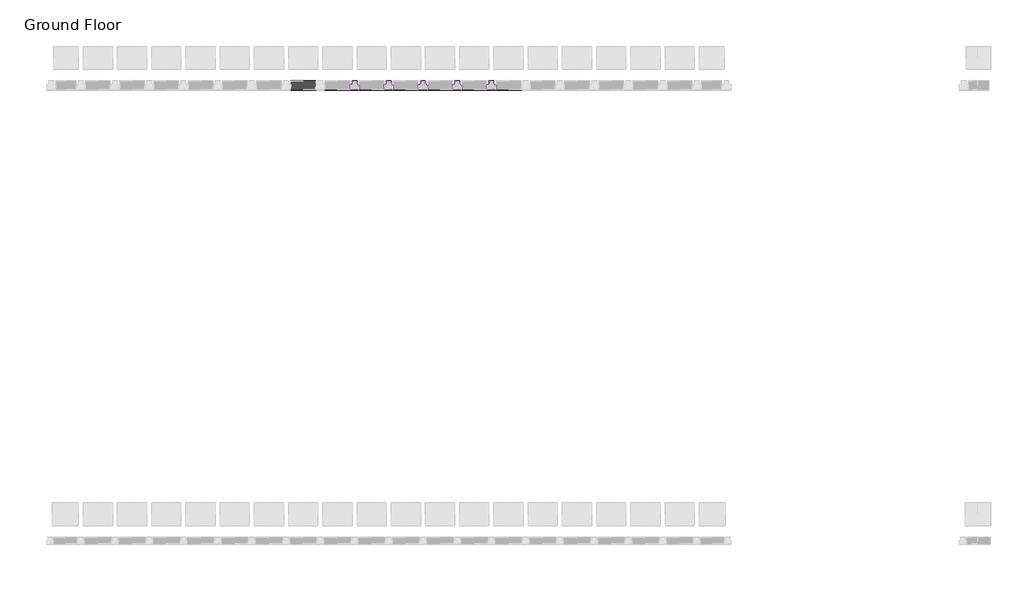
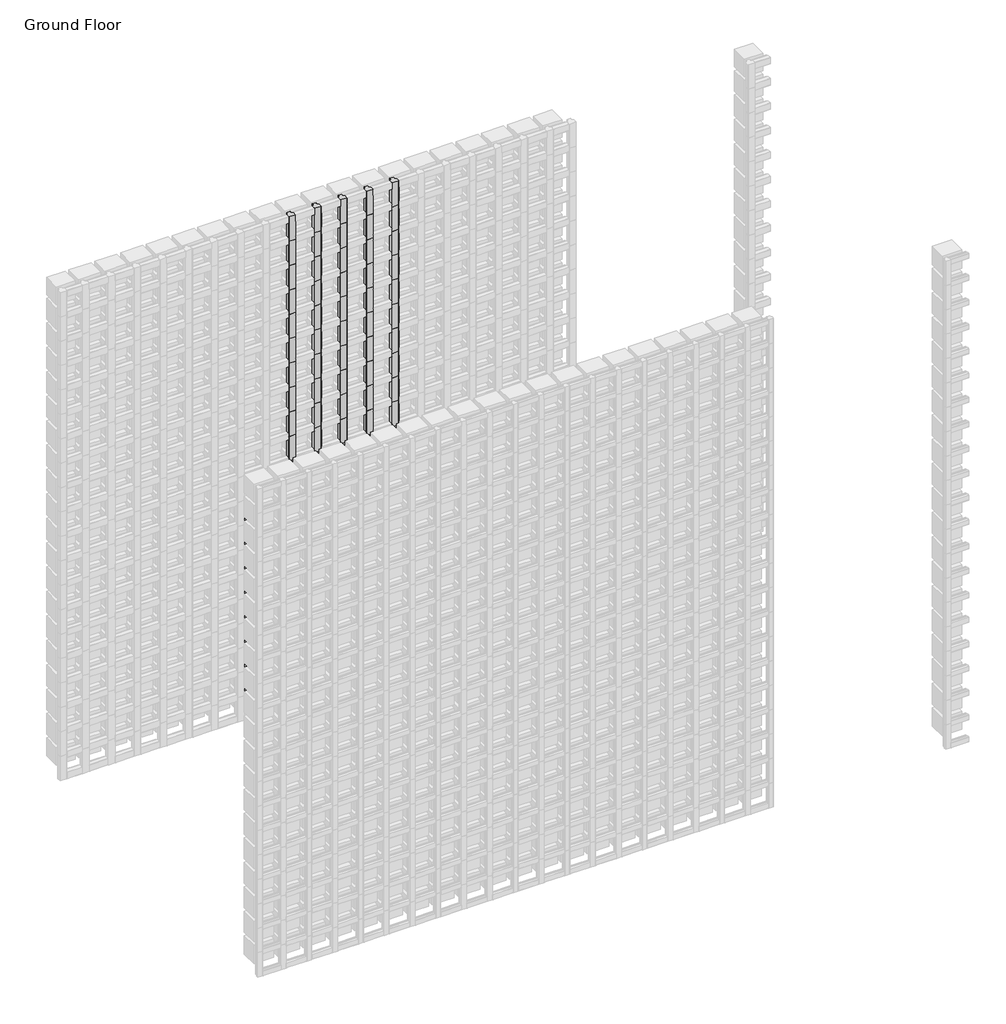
# One storey, part 122 of 350: 145 members.
"""IFC4 building model written with IfcOpenShell, lengths in millimetres."""

from ifc_helpers import new_model, si_unit, origin, place, context, project, spatial, transform, mapped, element, save
from components import rectangular_mullion_84e0df2e, rectangular_mullion_c1c7f7ba

model = new_model("IFC4")

# Units and contexts
model_context = context("Model", 3, world=origin())
ifc_project = project(units=[si_unit("LENGTHUNIT", "METRE", prefix="MILLI")], contexts=[model_context])

# Site, building, storey
site = spatial("IfcSite", under=ifc_project)
building = spatial("IfcBuilding", under=site)
storey = spatial("IfcBuildingStorey", under=building, Name="Ground Floor", Elevation=0.0)

# Members
placement = place(None, origin())
rectangular_mullion_shape = rectangular_mullion_84e0df2e(model_context)
element("IfcMember", 1, ObjectType="Rectangular Mullion : Batten_Timber_Modinex_Austratus_Grid_Fin_40x40_Blackbutt", at=placement, inside=storey, context=model_context, shape_type="MappedRepresentation", body=[
    mapped(rectangular_mullion_shape, transform((7266.4361642, 44968.2978302, 150.0), x_axis=(1.0, 0.0, 0.0), y_axis=(0.0, -1.0, 0.0), z_axis=(0.0, 0.0, -1.0))),
])
element("IfcMember", 2, ObjectType="Rectangular Mullion : Batten_Timber_Modinex_Austratus_Grid_Fin_40x40_Blackbutt", at=placement, inside=storey, context=model_context, shape_type="MappedRepresentation", body=[
    mapped(rectangular_mullion_shape, transform((7266.4361642, 44968.2978302, 300.0), x_axis=(1.0, 0.0, 0.0), y_axis=(0.0, -1.0, 0.0), z_axis=(0.0, 0.0, -1.0))),
])
element("IfcMember", 3, ObjectType="Rectangular Mullion : Batten_Timber_Modinex_Austratus_Grid_Fin_40x40_Blackbutt", at=placement, inside=storey, context=model_context, shape_type="MappedRepresentation", body=[
    mapped(rectangular_mullion_shape, transform((7266.4361642, 44968.2978302, 450.0), x_axis=(1.0, 0.0, 0.0), y_axis=(0.0, -1.0, 0.0), z_axis=(0.0, 0.0, -1.0))),
])
element("IfcMember", 4, ObjectType="Rectangular Mullion : Batten_Timber_Modinex_Austratus_Grid_Fin_40x40_Blackbutt", at=placement, inside=storey, context=model_context, shape_type="MappedRepresentation", body=[
    mapped(rectangular_mullion_shape, transform((7266.4361642, 44968.2978302, 600.0), x_axis=(1.0, 0.0, 0.0), y_axis=(0.0, -1.0, 0.0), z_axis=(0.0, 0.0, -1.0))),
])
element("IfcMember", 5, ObjectType="Rectangular Mullion : Batten_Timber_Modinex_Austratus_Grid_Fin_40x40_Blackbutt", at=placement, inside=storey, context=model_context, shape_type="MappedRepresentation", body=[
    mapped(rectangular_mullion_shape, transform((7266.4361642, 44968.2978302, 750.0), x_axis=(1.0, 0.0, 0.0), y_axis=(0.0, -1.0, 0.0), z_axis=(0.0, 0.0, -1.0))),
])
element("IfcMember", 6, ObjectType="Rectangular Mullion : Batten_Timber_Modinex_Austratus_Grid_Fin_40x40_Blackbutt", at=placement, inside=storey, context=model_context, shape_type="MappedRepresentation", body=[
    mapped(rectangular_mullion_shape, transform((7266.4361642, 44968.2978302, 900.0), x_axis=(1.0, 0.0, 0.0), y_axis=(0.0, -1.0, 0.0), z_axis=(0.0, 0.0, -1.0))),
])
element("IfcMember", 7, ObjectType="Rectangular Mullion : Batten_Timber_Modinex_Austratus_Grid_Fin_40x40_Blackbutt", at=placement, inside=storey, context=model_context, shape_type="MappedRepresentation", body=[
    mapped(rectangular_mullion_shape, transform((7266.4361642, 44968.2978302, 1050.0), x_axis=(1.0, 0.0, 0.0), y_axis=(0.0, -1.0, 0.0), z_axis=(0.0, 0.0, -1.0))),
])
element("IfcMember", 8, ObjectType="Rectangular Mullion : Batten_Timber_Modinex_Austratus_Grid_Fin_40x40_Blackbutt", at=placement, inside=storey, context=model_context, shape_type="MappedRepresentation", body=[
    mapped(rectangular_mullion_shape, transform((7266.4361642, 44968.2978302, 1200.0), x_axis=(1.0, 0.0, 0.0), y_axis=(0.0, -1.0, 0.0), z_axis=(0.0, 0.0, -1.0))),
])
element("IfcMember", 9, ObjectType="Rectangular Mullion : Batten_Timber_Modinex_Austratus_Grid_Fin_40x40_Blackbutt", at=placement, inside=storey, context=model_context, shape_type="MappedRepresentation", body=[
    mapped(rectangular_mullion_shape, transform((7266.4361642, 44968.2978302, 1350.0), x_axis=(1.0, 0.0, 0.0), y_axis=(0.0, -1.0, 0.0), z_axis=(0.0, 0.0, -1.0))),
])
element("IfcMember", 10, ObjectType="Rectangular Mullion : Batten_Timber_Modinex_Austratus_Grid_Fin_40x40_Blackbutt", at=placement, inside=storey, context=model_context, shape_type="MappedRepresentation", body=[
    mapped(rectangular_mullion_shape, transform((7266.4361642, 44968.2978302, 1500.0), x_axis=(1.0, 0.0, 0.0), y_axis=(0.0, -1.0, 0.0), z_axis=(0.0, 0.0, -1.0))),
])
element("IfcMember", 11, ObjectType="Rectangular Mullion : Batten_Timber_Modinex_Austratus_Grid_Fin_40x40_Blackbutt", at=placement, inside=storey, context=model_context, shape_type="MappedRepresentation", body=[
    mapped(rectangular_mullion_shape, transform((7266.4361642, 44968.2978302, 1650.0), x_axis=(1.0, 0.0, 0.0), y_axis=(0.0, -1.0, 0.0), z_axis=(0.0, 0.0, -1.0))),
])
element("IfcMember", 12, ObjectType="Rectangular Mullion : Batten_Timber_Modinex_Austratus_Grid_Fin_40x40_Blackbutt", at=placement, inside=storey, context=model_context, shape_type="MappedRepresentation", body=[
    mapped(rectangular_mullion_shape, transform((7266.4361642, 44968.2978302, 1800.0), x_axis=(1.0, 0.0, 0.0), y_axis=(0.0, -1.0, 0.0), z_axis=(0.0, 0.0, -1.0))),
])
element("IfcMember", 13, ObjectType="Rectangular Mullion : Batten_Timber_Modinex_Austratus_Grid_Fin_40x40_Blackbutt", at=placement, inside=storey, context=model_context, shape_type="MappedRepresentation", body=[
    mapped(rectangular_mullion_shape, transform((7266.4361642, 44968.2978302, 1950.0), x_axis=(1.0, 0.0, 0.0), y_axis=(0.0, -1.0, 0.0), z_axis=(0.0, 0.0, -1.0))),
])
element("IfcMember", 14, ObjectType="Rectangular Mullion : Batten_Timber_Modinex_Austratus_Grid_Fin_40x40_Blackbutt", at=placement, inside=storey, context=model_context, shape_type="MappedRepresentation", body=[
    mapped(rectangular_mullion_shape, transform((7266.4361642, 44968.2978302, 2100.0), x_axis=(1.0, 0.0, 0.0), y_axis=(0.0, -1.0, 0.0), z_axis=(0.0, 0.0, -1.0))),
])
element("IfcMember", 15, ObjectType="Rectangular Mullion : Batten_Timber_Modinex_Austratus_Grid_Fin_40x40_Blackbutt", at=placement, inside=storey, context=model_context, shape_type="MappedRepresentation", body=[
    mapped(rectangular_mullion_shape, transform((7266.4361642, 44968.2978302, 2250.0), x_axis=(1.0, 0.0, 0.0), y_axis=(0.0, -1.0, 0.0), z_axis=(0.0, 0.0, -1.0))),
])
element("IfcMember", 16, ObjectType="Rectangular Mullion : Batten_Timber_Modinex_Austratus_Grid_Fin_40x40_Blackbutt", at=placement, inside=storey, context=model_context, shape_type="MappedRepresentation", body=[
    mapped(rectangular_mullion_shape, transform((7266.4361642, 44968.2978302, 2400.0), x_axis=(1.0, 0.0, 0.0), y_axis=(0.0, -1.0, 0.0), z_axis=(0.0, 0.0, -1.0))),
])
element("IfcMember", 17, ObjectType="Rectangular Mullion : Batten_Timber_Modinex_Austratus_Grid_Fin_40x40_Blackbutt", at=placement, inside=storey, context=model_context, shape_type="MappedRepresentation", body=[
    mapped(rectangular_mullion_shape, transform((7266.4361642, 44968.2978302, 2550.0), x_axis=(1.0, 0.0, 0.0), y_axis=(0.0, -1.0, 0.0), z_axis=(0.0, 0.0, -1.0))),
])
element("IfcMember", 18, ObjectType="Rectangular Mullion : Batten_Timber_Modinex_Austratus_Grid_Fin_40x40_Blackbutt", at=placement, inside=storey, context=model_context, shape_type="MappedRepresentation", body=[
    mapped(rectangular_mullion_shape, transform((7266.4361642, 44968.2978302, 2700.0), x_axis=(1.0, 0.0, 0.0), y_axis=(0.0, -1.0, 0.0), z_axis=(0.0, 0.0, -1.0))),
])
element("IfcMember", 19, ObjectType="Rectangular Mullion : Batten_Timber_Modinex_Austratus_Grid_Fin_40x40_Blackbutt", at=placement, inside=storey, context=model_context, shape_type="MappedRepresentation", body=[
    mapped(rectangular_mullion_shape, transform((7416.4361642, 44968.2978302, 150.0), x_axis=(1.0, 0.0, 0.0), y_axis=(0.0, -1.0, 0.0), z_axis=(0.0, 0.0, -1.0))),
])
element("IfcMember", 20, ObjectType="Rectangular Mullion : Batten_Timber_Modinex_Austratus_Grid_Fin_40x40_Blackbutt", at=placement, inside=storey, context=model_context, shape_type="MappedRepresentation", body=[
    mapped(rectangular_mullion_shape, transform((7416.4361642, 44968.2978302, 300.0), x_axis=(1.0, 0.0, 0.0), y_axis=(0.0, -1.0, 0.0), z_axis=(0.0, 0.0, -1.0))),
])
element("IfcMember", 21, ObjectType="Rectangular Mullion : Batten_Timber_Modinex_Austratus_Grid_Fin_40x40_Blackbutt", at=placement, inside=storey, context=model_context, shape_type="MappedRepresentation", body=[
    mapped(rectangular_mullion_shape, transform((7416.4361642, 44968.2978302, 450.0), x_axis=(1.0, 0.0, 0.0), y_axis=(0.0, -1.0, 0.0), z_axis=(0.0, 0.0, -1.0))),
])
element("IfcMember", 22, ObjectType="Rectangular Mullion : Batten_Timber_Modinex_Austratus_Grid_Fin_40x40_Blackbutt", at=placement, inside=storey, context=model_context, shape_type="MappedRepresentation", body=[
    mapped(rectangular_mullion_shape, transform((7416.4361642, 44968.2978302, 600.0), x_axis=(1.0, 0.0, 0.0), y_axis=(0.0, -1.0, 0.0), z_axis=(0.0, 0.0, -1.0))),
])
element("IfcMember", 23, ObjectType="Rectangular Mullion : Batten_Timber_Modinex_Austratus_Grid_Fin_40x40_Blackbutt", at=placement, inside=storey, context=model_context, shape_type="MappedRepresentation", body=[
    mapped(rectangular_mullion_shape, transform((7416.4361642, 44968.2978302, 750.0), x_axis=(1.0, 0.0, 0.0), y_axis=(0.0, -1.0, 0.0), z_axis=(0.0, 0.0, -1.0))),
])
element("IfcMember", 24, ObjectType="Rectangular Mullion : Batten_Timber_Modinex_Austratus_Grid_Fin_40x40_Blackbutt", at=placement, inside=storey, context=model_context, shape_type="MappedRepresentation", body=[
    mapped(rectangular_mullion_shape, transform((7416.4361642, 44968.2978302, 900.0), x_axis=(1.0, 0.0, 0.0), y_axis=(0.0, -1.0, 0.0), z_axis=(0.0, 0.0, -1.0))),
])
element("IfcMember", 25, ObjectType="Rectangular Mullion : Batten_Timber_Modinex_Austratus_Grid_Fin_40x40_Blackbutt", at=placement, inside=storey, context=model_context, shape_type="MappedRepresentation", body=[
    mapped(rectangular_mullion_shape, transform((7416.4361642, 44968.2978302, 1050.0), x_axis=(1.0, 0.0, 0.0), y_axis=(0.0, -1.0, 0.0), z_axis=(0.0, 0.0, -1.0))),
])
element("IfcMember", 26, ObjectType="Rectangular Mullion : Batten_Timber_Modinex_Austratus_Grid_Fin_40x40_Blackbutt", at=placement, inside=storey, context=model_context, shape_type="MappedRepresentation", body=[
    mapped(rectangular_mullion_shape, transform((7416.4361642, 44968.2978302, 1200.0), x_axis=(1.0, 0.0, 0.0), y_axis=(0.0, -1.0, 0.0), z_axis=(0.0, 0.0, -1.0))),
])
element("IfcMember", 27, ObjectType="Rectangular Mullion : Batten_Timber_Modinex_Austratus_Grid_Fin_40x40_Blackbutt", at=placement, inside=storey, context=model_context, shape_type="MappedRepresentation", body=[
    mapped(rectangular_mullion_shape, transform((7416.4361642, 44968.2978302, 1350.0), x_axis=(1.0, 0.0, 0.0), y_axis=(0.0, -1.0, 0.0), z_axis=(0.0, 0.0, -1.0))),
])
element("IfcMember", 28, ObjectType="Rectangular Mullion : Batten_Timber_Modinex_Austratus_Grid_Fin_40x40_Blackbutt", at=placement, inside=storey, context=model_context, shape_type="MappedRepresentation", body=[
    mapped(rectangular_mullion_shape, transform((7416.4361642, 44968.2978302, 1500.0), x_axis=(1.0, 0.0, 0.0), y_axis=(0.0, -1.0, 0.0), z_axis=(0.0, 0.0, -1.0))),
])
element("IfcMember", 29, ObjectType="Rectangular Mullion : Batten_Timber_Modinex_Austratus_Grid_Fin_40x40_Blackbutt", at=placement, inside=storey, context=model_context, shape_type="MappedRepresentation", body=[
    mapped(rectangular_mullion_shape, transform((7416.4361642, 44968.2978302, 1650.0), x_axis=(1.0, 0.0, 0.0), y_axis=(0.0, -1.0, 0.0), z_axis=(0.0, 0.0, -1.0))),
])
element("IfcMember", 30, ObjectType="Rectangular Mullion : Batten_Timber_Modinex_Austratus_Grid_Fin_40x40_Blackbutt", at=placement, inside=storey, context=model_context, shape_type="MappedRepresentation", body=[
    mapped(rectangular_mullion_shape, transform((7416.4361642, 44968.2978302, 1800.0), x_axis=(1.0, 0.0, 0.0), y_axis=(0.0, -1.0, 0.0), z_axis=(0.0, 0.0, -1.0))),
])
element("IfcMember", 31, ObjectType="Rectangular Mullion : Batten_Timber_Modinex_Austratus_Grid_Fin_40x40_Blackbutt", at=placement, inside=storey, context=model_context, shape_type="MappedRepresentation", body=[
    mapped(rectangular_mullion_shape, transform((7416.4361642, 44968.2978302, 1950.0), x_axis=(1.0, 0.0, 0.0), y_axis=(0.0, -1.0, 0.0), z_axis=(0.0, 0.0, -1.0))),
])
element("IfcMember", 32, ObjectType="Rectangular Mullion : Batten_Timber_Modinex_Austratus_Grid_Fin_40x40_Blackbutt", at=placement, inside=storey, context=model_context, shape_type="MappedRepresentation", body=[
    mapped(rectangular_mullion_shape, transform((7416.4361642, 44968.2978302, 2100.0), x_axis=(1.0, 0.0, 0.0), y_axis=(0.0, -1.0, 0.0), z_axis=(0.0, 0.0, -1.0))),
])
element("IfcMember", 33, ObjectType="Rectangular Mullion : Batten_Timber_Modinex_Austratus_Grid_Fin_40x40_Blackbutt", at=placement, inside=storey, context=model_context, shape_type="MappedRepresentation", body=[
    mapped(rectangular_mullion_shape, transform((7416.4361642, 44968.2978302, 2250.0), x_axis=(1.0, 0.0, 0.0), y_axis=(0.0, -1.0, 0.0), z_axis=(0.0, 0.0, -1.0))),
])
element("IfcMember", 34, ObjectType="Rectangular Mullion : Batten_Timber_Modinex_Austratus_Grid_Fin_40x40_Blackbutt", at=placement, inside=storey, context=model_context, shape_type="MappedRepresentation", body=[
    mapped(rectangular_mullion_shape, transform((7416.4361642, 44968.2978302, 2400.0), x_axis=(1.0, 0.0, 0.0), y_axis=(0.0, -1.0, 0.0), z_axis=(0.0, 0.0, -1.0))),
])
element("IfcMember", 35, ObjectType="Rectangular Mullion : Batten_Timber_Modinex_Austratus_Grid_Fin_40x40_Blackbutt", at=placement, inside=storey, context=model_context, shape_type="MappedRepresentation", body=[
    mapped(rectangular_mullion_shape, transform((7416.4361642, 44968.2978302, 2550.0), x_axis=(1.0, 0.0, 0.0), y_axis=(0.0, -1.0, 0.0), z_axis=(0.0, 0.0, -1.0))),
])
element("IfcMember", 36, ObjectType="Rectangular Mullion : Batten_Timber_Modinex_Austratus_Grid_Fin_40x40_Blackbutt", at=placement, inside=storey, context=model_context, shape_type="MappedRepresentation", body=[
    mapped(rectangular_mullion_shape, transform((7416.4361642, 44968.2978302, 2700.0), x_axis=(1.0, 0.0, 0.0), y_axis=(0.0, -1.0, 0.0), z_axis=(0.0, 0.0, -1.0))),
])
element("IfcMember", 37, ObjectType="Rectangular Mullion : Batten_Timber_Modinex_Austratus_Grid_Fin_40x40_Blackbutt", at=placement, inside=storey, context=model_context, shape_type="MappedRepresentation", body=[
    mapped(rectangular_mullion_shape, transform((7566.4361642, 44968.2978302, 150.0), x_axis=(1.0, 0.0, 0.0), y_axis=(0.0, -1.0, 0.0), z_axis=(0.0, 0.0, -1.0))),
])
element("IfcMember", 38, ObjectType="Rectangular Mullion : Batten_Timber_Modinex_Austratus_Grid_Fin_40x40_Blackbutt", at=placement, inside=storey, context=model_context, shape_type="MappedRepresentation", body=[
    mapped(rectangular_mullion_shape, transform((7566.4361642, 44968.2978302, 300.0), x_axis=(1.0, 0.0, 0.0), y_axis=(0.0, -1.0, 0.0), z_axis=(0.0, 0.0, -1.0))),
])
element("IfcMember", 39, ObjectType="Rectangular Mullion : Batten_Timber_Modinex_Austratus_Grid_Fin_40x40_Blackbutt", at=placement, inside=storey, context=model_context, shape_type="MappedRepresentation", body=[
    mapped(rectangular_mullion_shape, transform((7566.4361642, 44968.2978302, 450.0), x_axis=(1.0, 0.0, 0.0), y_axis=(0.0, -1.0, 0.0), z_axis=(0.0, 0.0, -1.0))),
])
element("IfcMember", 40, ObjectType="Rectangular Mullion : Batten_Timber_Modinex_Austratus_Grid_Fin_40x40_Blackbutt", at=placement, inside=storey, context=model_context, shape_type="MappedRepresentation", body=[
    mapped(rectangular_mullion_shape, transform((7566.4361642, 44968.2978302, 600.0), x_axis=(1.0, 0.0, 0.0), y_axis=(0.0, -1.0, 0.0), z_axis=(0.0, 0.0, -1.0))),
])
element("IfcMember", 41, ObjectType="Rectangular Mullion : Batten_Timber_Modinex_Austratus_Grid_Fin_40x40_Blackbutt", at=placement, inside=storey, context=model_context, shape_type="MappedRepresentation", body=[
    mapped(rectangular_mullion_shape, transform((7566.4361642, 44968.2978302, 750.0), x_axis=(1.0, 0.0, 0.0), y_axis=(0.0, -1.0, 0.0), z_axis=(0.0, 0.0, -1.0))),
])
element("IfcMember", 42, ObjectType="Rectangular Mullion : Batten_Timber_Modinex_Austratus_Grid_Fin_40x40_Blackbutt", at=placement, inside=storey, context=model_context, shape_type="MappedRepresentation", body=[
    mapped(rectangular_mullion_shape, transform((7566.4361642, 44968.2978302, 900.0), x_axis=(1.0, 0.0, 0.0), y_axis=(0.0, -1.0, 0.0), z_axis=(0.0, 0.0, -1.0))),
])
element("IfcMember", 43, ObjectType="Rectangular Mullion : Batten_Timber_Modinex_Austratus_Grid_Fin_40x40_Blackbutt", at=placement, inside=storey, context=model_context, shape_type="MappedRepresentation", body=[
    mapped(rectangular_mullion_shape, transform((7566.4361642, 44968.2978302, 1050.0), x_axis=(1.0, 0.0, 0.0), y_axis=(0.0, -1.0, 0.0), z_axis=(0.0, 0.0, -1.0))),
])
element("IfcMember", 44, ObjectType="Rectangular Mullion : Batten_Timber_Modinex_Austratus_Grid_Fin_40x40_Blackbutt", at=placement, inside=storey, context=model_context, shape_type="MappedRepresentation", body=[
    mapped(rectangular_mullion_shape, transform((7566.4361642, 44968.2978302, 1200.0), x_axis=(1.0, 0.0, 0.0), y_axis=(0.0, -1.0, 0.0), z_axis=(0.0, 0.0, -1.0))),
])
element("IfcMember", 45, ObjectType="Rectangular Mullion : Batten_Timber_Modinex_Austratus_Grid_Fin_40x40_Blackbutt", at=placement, inside=storey, context=model_context, shape_type="MappedRepresentation", body=[
    mapped(rectangular_mullion_shape, transform((7566.4361642, 44968.2978302, 1350.0), x_axis=(1.0, 0.0, 0.0), y_axis=(0.0, -1.0, 0.0), z_axis=(0.0, 0.0, -1.0))),
])
element("IfcMember", 46, ObjectType="Rectangular Mullion : Batten_Timber_Modinex_Austratus_Grid_Fin_40x40_Blackbutt", at=placement, inside=storey, context=model_context, shape_type="MappedRepresentation", body=[
    mapped(rectangular_mullion_shape, transform((7566.4361642, 44968.2978302, 1500.0), x_axis=(1.0, 0.0, 0.0), y_axis=(0.0, -1.0, 0.0), z_axis=(0.0, 0.0, -1.0))),
])
element("IfcMember", 47, ObjectType="Rectangular Mullion : Batten_Timber_Modinex_Austratus_Grid_Fin_40x40_Blackbutt", at=placement, inside=storey, context=model_context, shape_type="MappedRepresentation", body=[
    mapped(rectangular_mullion_shape, transform((7566.4361642, 44968.2978302, 1650.0), x_axis=(1.0, 0.0, 0.0), y_axis=(0.0, -1.0, 0.0), z_axis=(0.0, 0.0, -1.0))),
])
element("IfcMember", 48, ObjectType="Rectangular Mullion : Batten_Timber_Modinex_Austratus_Grid_Fin_40x40_Blackbutt", at=placement, inside=storey, context=model_context, shape_type="MappedRepresentation", body=[
    mapped(rectangular_mullion_shape, transform((7566.4361642, 44968.2978302, 1800.0), x_axis=(1.0, 0.0, 0.0), y_axis=(0.0, -1.0, 0.0), z_axis=(0.0, 0.0, -1.0))),
])
element("IfcMember", 49, ObjectType="Rectangular Mullion : Batten_Timber_Modinex_Austratus_Grid_Fin_40x40_Blackbutt", at=placement, inside=storey, context=model_context, shape_type="MappedRepresentation", body=[
    mapped(rectangular_mullion_shape, transform((7566.4361642, 44968.2978302, 1950.0), x_axis=(1.0, 0.0, 0.0), y_axis=(0.0, -1.0, 0.0), z_axis=(0.0, 0.0, -1.0))),
])
element("IfcMember", 50, ObjectType="Rectangular Mullion : Batten_Timber_Modinex_Austratus_Grid_Fin_40x40_Blackbutt", at=placement, inside=storey, context=model_context, shape_type="MappedRepresentation", body=[
    mapped(rectangular_mullion_shape, transform((7566.4361642, 44968.2978302, 2100.0), x_axis=(1.0, 0.0, 0.0), y_axis=(0.0, -1.0, 0.0), z_axis=(0.0, 0.0, -1.0))),
])
element("IfcMember", 51, ObjectType="Rectangular Mullion : Batten_Timber_Modinex_Austratus_Grid_Fin_40x40_Blackbutt", at=placement, inside=storey, context=model_context, shape_type="MappedRepresentation", body=[
    mapped(rectangular_mullion_shape, transform((7566.4361642, 44968.2978302, 2250.0), x_axis=(1.0, 0.0, 0.0), y_axis=(0.0, -1.0, 0.0), z_axis=(0.0, 0.0, -1.0))),
])
element("IfcMember", 52, ObjectType="Rectangular Mullion : Batten_Timber_Modinex_Austratus_Grid_Fin_40x40_Blackbutt", at=placement, inside=storey, context=model_context, shape_type="MappedRepresentation", body=[
    mapped(rectangular_mullion_shape, transform((7566.4361642, 44968.2978302, 2400.0), x_axis=(1.0, 0.0, 0.0), y_axis=(0.0, -1.0, 0.0), z_axis=(0.0, 0.0, -1.0))),
])
element("IfcMember", 53, ObjectType="Rectangular Mullion : Batten_Timber_Modinex_Austratus_Grid_Fin_40x40_Blackbutt", at=placement, inside=storey, context=model_context, shape_type="MappedRepresentation", body=[
    mapped(rectangular_mullion_shape, transform((7566.4361642, 44968.2978302, 2550.0), x_axis=(1.0, 0.0, 0.0), y_axis=(0.0, -1.0, 0.0), z_axis=(0.0, 0.0, -1.0))),
])
element("IfcMember", 54, ObjectType="Rectangular Mullion : Batten_Timber_Modinex_Austratus_Grid_Fin_40x40_Blackbutt", at=placement, inside=storey, context=model_context, shape_type="MappedRepresentation", body=[
    mapped(rectangular_mullion_shape, transform((7566.4361642, 44968.2978302, 2700.0), x_axis=(1.0, 0.0, 0.0), y_axis=(0.0, -1.0, 0.0), z_axis=(0.0, 0.0, -1.0))),
])
element("IfcMember", 55, ObjectType="Rectangular Mullion : Batten_Timber_Modinex_Austratus_Grid_Fin_40x40_Blackbutt", at=placement, inside=storey, context=model_context, shape_type="MappedRepresentation", body=[
    mapped(rectangular_mullion_shape, transform((7716.4361642, 44968.2978302, 150.0), x_axis=(1.0, 0.0, 0.0), y_axis=(0.0, -1.0, 0.0), z_axis=(0.0, 0.0, -1.0))),
])
element("IfcMember", 56, ObjectType="Rectangular Mullion : Batten_Timber_Modinex_Austratus_Grid_Fin_40x40_Blackbutt", at=placement, inside=storey, context=model_context, shape_type="MappedRepresentation", body=[
    mapped(rectangular_mullion_shape, transform((7716.4361642, 44968.2978302, 300.0), x_axis=(1.0, 0.0, 0.0), y_axis=(0.0, -1.0, 0.0), z_axis=(0.0, 0.0, -1.0))),
])
element("IfcMember", 57, ObjectType="Rectangular Mullion : Batten_Timber_Modinex_Austratus_Grid_Fin_40x40_Blackbutt", at=placement, inside=storey, context=model_context, shape_type="MappedRepresentation", body=[
    mapped(rectangular_mullion_shape, transform((7716.4361642, 44968.2978302, 450.0), x_axis=(1.0, 0.0, 0.0), y_axis=(0.0, -1.0, 0.0), z_axis=(0.0, 0.0, -1.0))),
])
element("IfcMember", 58, ObjectType="Rectangular Mullion : Batten_Timber_Modinex_Austratus_Grid_Fin_40x40_Blackbutt", at=placement, inside=storey, context=model_context, shape_type="MappedRepresentation", body=[
    mapped(rectangular_mullion_shape, transform((7716.4361642, 44968.2978302, 600.0), x_axis=(1.0, 0.0, 0.0), y_axis=(0.0, -1.0, 0.0), z_axis=(0.0, 0.0, -1.0))),
])
element("IfcMember", 59, ObjectType="Rectangular Mullion : Batten_Timber_Modinex_Austratus_Grid_Fin_40x40_Blackbutt", at=placement, inside=storey, context=model_context, shape_type="MappedRepresentation", body=[
    mapped(rectangular_mullion_shape, transform((7716.4361642, 44968.2978302, 750.0), x_axis=(1.0, 0.0, 0.0), y_axis=(0.0, -1.0, 0.0), z_axis=(0.0, 0.0, -1.0))),
])
element("IfcMember", 60, ObjectType="Rectangular Mullion : Batten_Timber_Modinex_Austratus_Grid_Fin_40x40_Blackbutt", at=placement, inside=storey, context=model_context, shape_type="MappedRepresentation", body=[
    mapped(rectangular_mullion_shape, transform((7716.4361642, 44968.2978302, 900.0), x_axis=(1.0, 0.0, 0.0), y_axis=(0.0, -1.0, 0.0), z_axis=(0.0, 0.0, -1.0))),
])
element("IfcMember", 61, ObjectType="Rectangular Mullion : Batten_Timber_Modinex_Austratus_Grid_Fin_40x40_Blackbutt", at=placement, inside=storey, context=model_context, shape_type="MappedRepresentation", body=[
    mapped(rectangular_mullion_shape, transform((7716.4361642, 44968.2978302, 1050.0), x_axis=(1.0, 0.0, 0.0), y_axis=(0.0, -1.0, 0.0), z_axis=(0.0, 0.0, -1.0))),
])
element("IfcMember", 62, ObjectType="Rectangular Mullion : Batten_Timber_Modinex_Austratus_Grid_Fin_40x40_Blackbutt", at=placement, inside=storey, context=model_context, shape_type="MappedRepresentation", body=[
    mapped(rectangular_mullion_shape, transform((7716.4361642, 44968.2978302, 1200.0), x_axis=(1.0, 0.0, 0.0), y_axis=(0.0, -1.0, 0.0), z_axis=(0.0, 0.0, -1.0))),
])
element("IfcMember", 63, ObjectType="Rectangular Mullion : Batten_Timber_Modinex_Austratus_Grid_Fin_40x40_Blackbutt", at=placement, inside=storey, context=model_context, shape_type="MappedRepresentation", body=[
    mapped(rectangular_mullion_shape, transform((7716.4361642, 44968.2978302, 1350.0), x_axis=(1.0, 0.0, 0.0), y_axis=(0.0, -1.0, 0.0), z_axis=(0.0, 0.0, -1.0))),
])
element("IfcMember", 64, ObjectType="Rectangular Mullion : Batten_Timber_Modinex_Austratus_Grid_Fin_40x40_Blackbutt", at=placement, inside=storey, context=model_context, shape_type="MappedRepresentation", body=[
    mapped(rectangular_mullion_shape, transform((7716.4361642, 44968.2978302, 1500.0), x_axis=(1.0, 0.0, 0.0), y_axis=(0.0, -1.0, 0.0), z_axis=(0.0, 0.0, -1.0))),
])
element("IfcMember", 65, ObjectType="Rectangular Mullion : Batten_Timber_Modinex_Austratus_Grid_Fin_40x40_Blackbutt", at=placement, inside=storey, context=model_context, shape_type="MappedRepresentation", body=[
    mapped(rectangular_mullion_shape, transform((7716.4361642, 44968.2978302, 1650.0), x_axis=(1.0, 0.0, 0.0), y_axis=(0.0, -1.0, 0.0), z_axis=(0.0, 0.0, -1.0))),
])
element("IfcMember", 66, ObjectType="Rectangular Mullion : Batten_Timber_Modinex_Austratus_Grid_Fin_40x40_Blackbutt", at=placement, inside=storey, context=model_context, shape_type="MappedRepresentation", body=[
    mapped(rectangular_mullion_shape, transform((7716.4361642, 44968.2978302, 1800.0), x_axis=(1.0, 0.0, 0.0), y_axis=(0.0, -1.0, 0.0), z_axis=(0.0, 0.0, -1.0))),
])
element("IfcMember", 67, ObjectType="Rectangular Mullion : Batten_Timber_Modinex_Austratus_Grid_Fin_40x40_Blackbutt", at=placement, inside=storey, context=model_context, shape_type="MappedRepresentation", body=[
    mapped(rectangular_mullion_shape, transform((7716.4361642, 44968.2978302, 1950.0), x_axis=(1.0, 0.0, 0.0), y_axis=(0.0, -1.0, 0.0), z_axis=(0.0, 0.0, -1.0))),
])
element("IfcMember", 68, ObjectType="Rectangular Mullion : Batten_Timber_Modinex_Austratus_Grid_Fin_40x40_Blackbutt", at=placement, inside=storey, context=model_context, shape_type="MappedRepresentation", body=[
    mapped(rectangular_mullion_shape, transform((7716.4361642, 44968.2978302, 2100.0), x_axis=(1.0, 0.0, 0.0), y_axis=(0.0, -1.0, 0.0), z_axis=(0.0, 0.0, -1.0))),
])
element("IfcMember", 69, ObjectType="Rectangular Mullion : Batten_Timber_Modinex_Austratus_Grid_Fin_40x40_Blackbutt", at=placement, inside=storey, context=model_context, shape_type="MappedRepresentation", body=[
    mapped(rectangular_mullion_shape, transform((7716.4361642, 44968.2978302, 2250.0), x_axis=(1.0, 0.0, 0.0), y_axis=(0.0, -1.0, 0.0), z_axis=(0.0, 0.0, -1.0))),
])
element("IfcMember", 70, ObjectType="Rectangular Mullion : Batten_Timber_Modinex_Austratus_Grid_Fin_40x40_Blackbutt", at=placement, inside=storey, context=model_context, shape_type="MappedRepresentation", body=[
    mapped(rectangular_mullion_shape, transform((7716.4361642, 44968.2978302, 2400.0), x_axis=(1.0, 0.0, 0.0), y_axis=(0.0, -1.0, 0.0), z_axis=(0.0, 0.0, -1.0))),
])
element("IfcMember", 71, ObjectType="Rectangular Mullion : Batten_Timber_Modinex_Austratus_Grid_Fin_40x40_Blackbutt", at=placement, inside=storey, context=model_context, shape_type="MappedRepresentation", body=[
    mapped(rectangular_mullion_shape, transform((7716.4361642, 44968.2978302, 2550.0), x_axis=(1.0, 0.0, 0.0), y_axis=(0.0, -1.0, 0.0), z_axis=(0.0, 0.0, -1.0))),
])
element("IfcMember", 72, ObjectType="Rectangular Mullion : Batten_Timber_Modinex_Austratus_Grid_Fin_40x40_Blackbutt", at=placement, inside=storey, context=model_context, shape_type="MappedRepresentation", body=[
    mapped(rectangular_mullion_shape, transform((7716.4361642, 44968.2978302, 2700.0), x_axis=(1.0, 0.0, 0.0), y_axis=(0.0, -1.0, 0.0), z_axis=(0.0, 0.0, -1.0))),
])
element("IfcMember", 73, ObjectType="Rectangular Mullion : Batten_Timber_Modinex_Austratus_Grid_Fin_40x40_Blackbutt", at=placement, inside=storey, context=model_context, shape_type="MappedRepresentation", body=[
    mapped(rectangular_mullion_shape, transform((7866.4361642, 44968.2978302, 150.0), x_axis=(1.0, 0.0, 0.0), y_axis=(0.0, -1.0, 0.0), z_axis=(0.0, 0.0, -1.0))),
])
element("IfcMember", 74, ObjectType="Rectangular Mullion : Batten_Timber_Modinex_Austratus_Grid_Fin_40x40_Blackbutt", at=placement, inside=storey, context=model_context, shape_type="MappedRepresentation", body=[
    mapped(rectangular_mullion_shape, transform((7866.4361642, 44968.2978302, 300.0), x_axis=(1.0, 0.0, 0.0), y_axis=(0.0, -1.0, 0.0), z_axis=(0.0, 0.0, -1.0))),
])
element("IfcMember", 75, ObjectType="Rectangular Mullion : Batten_Timber_Modinex_Austratus_Grid_Fin_40x40_Blackbutt", at=placement, inside=storey, context=model_context, shape_type="MappedRepresentation", body=[
    mapped(rectangular_mullion_shape, transform((7866.4361642, 44968.2978302, 450.0), x_axis=(1.0, 0.0, 0.0), y_axis=(0.0, -1.0, 0.0), z_axis=(0.0, 0.0, -1.0))),
])
element("IfcMember", 76, ObjectType="Rectangular Mullion : Batten_Timber_Modinex_Austratus_Grid_Fin_40x40_Blackbutt", at=placement, inside=storey, context=model_context, shape_type="MappedRepresentation", body=[
    mapped(rectangular_mullion_shape, transform((7866.4361642, 44968.2978302, 600.0), x_axis=(1.0, 0.0, 0.0), y_axis=(0.0, -1.0, 0.0), z_axis=(0.0, 0.0, -1.0))),
])
element("IfcMember", 77, ObjectType="Rectangular Mullion : Batten_Timber_Modinex_Austratus_Grid_Fin_40x40_Blackbutt", at=placement, inside=storey, context=model_context, shape_type="MappedRepresentation", body=[
    mapped(rectangular_mullion_shape, transform((7866.4361642, 44968.2978302, 750.0), x_axis=(1.0, 0.0, 0.0), y_axis=(0.0, -1.0, 0.0), z_axis=(0.0, 0.0, -1.0))),
])
element("IfcMember", 78, ObjectType="Rectangular Mullion : Batten_Timber_Modinex_Austratus_Grid_Fin_40x40_Blackbutt", at=placement, inside=storey, context=model_context, shape_type="MappedRepresentation", body=[
    mapped(rectangular_mullion_shape, transform((7866.4361642, 44968.2978302, 900.0), x_axis=(1.0, 0.0, 0.0), y_axis=(0.0, -1.0, 0.0), z_axis=(0.0, 0.0, -1.0))),
])
element("IfcMember", 79, ObjectType="Rectangular Mullion : Batten_Timber_Modinex_Austratus_Grid_Fin_40x40_Blackbutt", at=placement, inside=storey, context=model_context, shape_type="MappedRepresentation", body=[
    mapped(rectangular_mullion_shape, transform((7866.4361642, 44968.2978302, 1050.0), x_axis=(1.0, 0.0, 0.0), y_axis=(0.0, -1.0, 0.0), z_axis=(0.0, 0.0, -1.0))),
])
element("IfcMember", 80, ObjectType="Rectangular Mullion : Batten_Timber_Modinex_Austratus_Grid_Fin_40x40_Blackbutt", at=placement, inside=storey, context=model_context, shape_type="MappedRepresentation", body=[
    mapped(rectangular_mullion_shape, transform((7866.4361642, 44968.2978302, 1200.0), x_axis=(1.0, 0.0, 0.0), y_axis=(0.0, -1.0, 0.0), z_axis=(0.0, 0.0, -1.0))),
])
element("IfcMember", 81, ObjectType="Rectangular Mullion : Batten_Timber_Modinex_Austratus_Grid_Fin_40x40_Blackbutt", at=placement, inside=storey, context=model_context, shape_type="MappedRepresentation", body=[
    mapped(rectangular_mullion_shape, transform((7866.4361642, 44968.2978302, 1350.0), x_axis=(1.0, 0.0, 0.0), y_axis=(0.0, -1.0, 0.0), z_axis=(0.0, 0.0, -1.0))),
])
element("IfcMember", 82, ObjectType="Rectangular Mullion : Batten_Timber_Modinex_Austratus_Grid_Fin_40x40_Blackbutt", at=placement, inside=storey, context=model_context, shape_type="MappedRepresentation", body=[
    mapped(rectangular_mullion_shape, transform((7866.4361642, 44968.2978302, 1500.0), x_axis=(1.0, 0.0, 0.0), y_axis=(0.0, -1.0, 0.0), z_axis=(0.0, 0.0, -1.0))),
])
element("IfcMember", 83, ObjectType="Rectangular Mullion : Batten_Timber_Modinex_Austratus_Grid_Fin_40x40_Blackbutt", at=placement, inside=storey, context=model_context, shape_type="MappedRepresentation", body=[
    mapped(rectangular_mullion_shape, transform((7866.4361642, 44968.2978302, 1650.0), x_axis=(1.0, 0.0, 0.0), y_axis=(0.0, -1.0, 0.0), z_axis=(0.0, 0.0, -1.0))),
])
element("IfcMember", 84, ObjectType="Rectangular Mullion : Batten_Timber_Modinex_Austratus_Grid_Fin_40x40_Blackbutt", at=placement, inside=storey, context=model_context, shape_type="MappedRepresentation", body=[
    mapped(rectangular_mullion_shape, transform((7866.4361642, 44968.2978302, 1800.0), x_axis=(1.0, 0.0, 0.0), y_axis=(0.0, -1.0, 0.0), z_axis=(0.0, 0.0, -1.0))),
])
element("IfcMember", 85, ObjectType="Rectangular Mullion : Batten_Timber_Modinex_Austratus_Grid_Fin_40x40_Blackbutt", at=placement, inside=storey, context=model_context, shape_type="MappedRepresentation", body=[
    mapped(rectangular_mullion_shape, transform((7866.4361642, 44968.2978302, 1950.0), x_axis=(1.0, 0.0, 0.0), y_axis=(0.0, -1.0, 0.0), z_axis=(0.0, 0.0, -1.0))),
])
element("IfcMember", 86, ObjectType="Rectangular Mullion : Batten_Timber_Modinex_Austratus_Grid_Fin_40x40_Blackbutt", at=placement, inside=storey, context=model_context, shape_type="MappedRepresentation", body=[
    mapped(rectangular_mullion_shape, transform((7866.4361642, 44968.2978302, 2100.0), x_axis=(1.0, 0.0, 0.0), y_axis=(0.0, -1.0, 0.0), z_axis=(0.0, 0.0, -1.0))),
])
element("IfcMember", 87, ObjectType="Rectangular Mullion : Batten_Timber_Modinex_Austratus_Grid_Fin_40x40_Blackbutt", at=placement, inside=storey, context=model_context, shape_type="MappedRepresentation", body=[
    mapped(rectangular_mullion_shape, transform((7866.4361642, 44968.2978302, 2250.0), x_axis=(1.0, 0.0, 0.0), y_axis=(0.0, -1.0, 0.0), z_axis=(0.0, 0.0, -1.0))),
])
element("IfcMember", 88, ObjectType="Rectangular Mullion : Batten_Timber_Modinex_Austratus_Grid_Fin_40x40_Blackbutt", at=placement, inside=storey, context=model_context, shape_type="MappedRepresentation", body=[
    mapped(rectangular_mullion_shape, transform((7866.4361642, 44968.2978302, 2400.0), x_axis=(1.0, 0.0, 0.0), y_axis=(0.0, -1.0, 0.0), z_axis=(0.0, 0.0, -1.0))),
])
element("IfcMember", 89, ObjectType="Rectangular Mullion : Batten_Timber_Modinex_Austratus_Grid_Fin_40x40_Blackbutt", at=placement, inside=storey, context=model_context, shape_type="MappedRepresentation", body=[
    mapped(rectangular_mullion_shape, transform((7866.4361642, 44968.2978302, 2550.0), x_axis=(1.0, 0.0, 0.0), y_axis=(0.0, -1.0, 0.0), z_axis=(0.0, 0.0, -1.0))),
])
element("IfcMember", 90, ObjectType="Rectangular Mullion : Batten_Timber_Modinex_Austratus_Grid_Fin_40x40_Blackbutt", at=placement, inside=storey, context=model_context, shape_type="MappedRepresentation", body=[
    mapped(rectangular_mullion_shape, transform((7866.4361642, 44968.2978302, 2700.0), x_axis=(1.0, 0.0, 0.0), y_axis=(0.0, -1.0, 0.0), z_axis=(0.0, 0.0, -1.0))),
])
element("IfcMember", 91, ObjectType="Rectangular Mullion : Batten_Timber_Modinex_Austratus_Grid_Fin_40x40_Blackbutt", at=placement, inside=storey, context=model_context, shape_type="MappedRepresentation", body=[
    mapped(rectangular_mullion_shape, transform((7266.4361642, 44968.2978302, 2850.0), x_axis=(1.0, 0.0, 0.0), y_axis=(0.0, -1.0, 0.0), z_axis=(0.0, 0.0, -1.0))),
])
element("IfcMember", 92, ObjectType="Rectangular Mullion : Batten_Timber_Modinex_Austratus_Grid_Fin_40x40_Blackbutt", at=placement, inside=storey, context=model_context, shape_type="MappedRepresentation", body=[
    mapped(rectangular_mullion_shape, transform((7416.4361642, 44968.2978302, 2850.0), x_axis=(1.0, 0.0, 0.0), y_axis=(0.0, -1.0, 0.0), z_axis=(0.0, 0.0, -1.0))),
])
element("IfcMember", 93, ObjectType="Rectangular Mullion : Batten_Timber_Modinex_Austratus_Grid_Fin_40x40_Blackbutt", at=placement, inside=storey, context=model_context, shape_type="MappedRepresentation", body=[
    mapped(rectangular_mullion_shape, transform((7566.4361642, 44968.2978302, 2850.0), x_axis=(1.0, 0.0, 0.0), y_axis=(0.0, -1.0, 0.0), z_axis=(0.0, 0.0, -1.0))),
])
element("IfcMember", 94, ObjectType="Rectangular Mullion : Batten_Timber_Modinex_Austratus_Grid_Fin_40x40_Blackbutt", at=placement, inside=storey, context=model_context, shape_type="MappedRepresentation", body=[
    mapped(rectangular_mullion_shape, transform((7716.4361642, 44968.2978302, 2850.0), x_axis=(1.0, 0.0, 0.0), y_axis=(0.0, -1.0, 0.0), z_axis=(0.0, 0.0, -1.0))),
])
element("IfcMember", 95, ObjectType="Rectangular Mullion : Batten_Timber_Modinex_Austratus_Grid_Fin_40x40_Blackbutt", at=placement, inside=storey, context=model_context, shape_type="MappedRepresentation", body=[
    mapped(rectangular_mullion_shape, transform((7866.4361642, 44968.2978302, 2850.0), x_axis=(1.0, 0.0, 0.0), y_axis=(0.0, -1.0, 0.0), z_axis=(0.0, 0.0, -1.0))),
])
rectangular_mullion_2_shape = rectangular_mullion_c1c7f7ba(model_context)
element("IfcMember", 96, ObjectType="Rectangular Mullion : Batten_Timber_Modinex_Austratus_Grid_Fin_40x40_Blackbutt", at=placement, inside=storey, context=model_context, shape_type="MappedRepresentation", body=[
    mapped(rectangular_mullion_2_shape, transform((7096.4361642, 44968.2978302, 150.0), x_axis=(0.0, 0.0, 1.0), y_axis=(0.0, -1.0, 0.0), z_axis=(1.0, 0.0, 0.0))),
])
element("IfcMember", 97, ObjectType="Rectangular Mullion : Batten_Timber_Modinex_Austratus_Grid_Fin_40x40_Blackbutt", at=placement, inside=storey, context=model_context, shape_type="MappedRepresentation", body=[
    mapped(rectangular_mullion_2_shape, transform((7246.4361642, 44968.2978302, 150.0), x_axis=(0.0, 0.0, 1.0), y_axis=(0.0, -1.0, 0.0), z_axis=(1.0, 0.0, 0.0))),
])
element("IfcMember", 98, ObjectType="Rectangular Mullion : Batten_Timber_Modinex_Austratus_Grid_Fin_40x40_Blackbutt", at=placement, inside=storey, context=model_context, shape_type="MappedRepresentation", body=[
    mapped(rectangular_mullion_2_shape, transform((7396.4361642, 44968.2978302, 150.0), x_axis=(0.0, 0.0, 1.0), y_axis=(0.0, -1.0, 0.0), z_axis=(1.0, 0.0, 0.0))),
])
element("IfcMember", 99, ObjectType="Rectangular Mullion : Batten_Timber_Modinex_Austratus_Grid_Fin_40x40_Blackbutt", at=placement, inside=storey, context=model_context, shape_type="MappedRepresentation", body=[
    mapped(rectangular_mullion_2_shape, transform((7546.4361642, 44968.2978302, 150.0), x_axis=(0.0, 0.0, 1.0), y_axis=(0.0, -1.0, 0.0), z_axis=(1.0, 0.0, 0.0))),
])
element("IfcMember", 100, ObjectType="Rectangular Mullion : Batten_Timber_Modinex_Austratus_Grid_Fin_40x40_Blackbutt", at=placement, inside=storey, context=model_context, shape_type="MappedRepresentation", body=[
    mapped(rectangular_mullion_2_shape, transform((7696.4361642, 44968.2978302, 150.0), x_axis=(0.0, 0.0, 1.0), y_axis=(0.0, -1.0, 0.0), z_axis=(1.0, 0.0, 0.0))),
])
element("IfcMember", 101, ObjectType="Rectangular Mullion : Batten_Timber_Modinex_Austratus_Grid_Fin_40x40_Blackbutt", at=placement, inside=storey, context=model_context, shape_type="MappedRepresentation", body=[
    mapped(rectangular_mullion_2_shape, transform((7846.4361642, 44968.2978302, 150.0), x_axis=(0.0, 0.0, 1.0), y_axis=(0.0, -1.0, 0.0), z_axis=(1.0, 0.0, 0.0))),
])
element("IfcMember", 102, ObjectType="Rectangular Mullion : Batten_Timber_Modinex_Austratus_Grid_Fin_40x40_Blackbutt", at=placement, inside=storey, context=model_context, shape_type="MappedRepresentation", body=[
    mapped(rectangular_mullion_2_shape, transform((7996.4361642, 44968.2978302, 150.0), x_axis=(0.0, 0.0, 1.0), y_axis=(0.0, -1.0, 0.0), z_axis=(1.0, 0.0, 0.0))),
])
element("IfcMember", 103, ObjectType="Rectangular Mullion : Batten_Timber_Modinex_Austratus_Grid_Fin_40x40_Blackbutt", at=placement, inside=storey, context=model_context, shape_type="MappedRepresentation", body=[
    mapped(rectangular_mullion_2_shape, transform((7096.4361642, 44968.2978302, 300.0), x_axis=(0.0, 0.0, 1.0), y_axis=(0.0, -1.0, 0.0), z_axis=(1.0, 0.0, 0.0))),
])
element("IfcMember", 104, ObjectType="Rectangular Mullion : Batten_Timber_Modinex_Austratus_Grid_Fin_40x40_Blackbutt", at=placement, inside=storey, context=model_context, shape_type="MappedRepresentation", body=[
    mapped(rectangular_mullion_2_shape, transform((7246.4361642, 44968.2978302, 300.0), x_axis=(0.0, 0.0, 1.0), y_axis=(0.0, -1.0, 0.0), z_axis=(1.0, 0.0, 0.0))),
])
element("IfcMember", 105, ObjectType="Rectangular Mullion : Batten_Timber_Modinex_Austratus_Grid_Fin_40x40_Blackbutt", at=placement, inside=storey, context=model_context, shape_type="MappedRepresentation", body=[
    mapped(rectangular_mullion_2_shape, transform((7396.4361642, 44968.2978302, 300.0), x_axis=(0.0, 0.0, 1.0), y_axis=(0.0, -1.0, 0.0), z_axis=(1.0, 0.0, 0.0))),
])
element("IfcMember", 106, ObjectType="Rectangular Mullion : Batten_Timber_Modinex_Austratus_Grid_Fin_40x40_Blackbutt", at=placement, inside=storey, context=model_context, shape_type="MappedRepresentation", body=[
    mapped(rectangular_mullion_2_shape, transform((7546.4361642, 44968.2978302, 300.0), x_axis=(0.0, 0.0, 1.0), y_axis=(0.0, -1.0, 0.0), z_axis=(1.0, 0.0, 0.0))),
])
element("IfcMember", 107, ObjectType="Rectangular Mullion : Batten_Timber_Modinex_Austratus_Grid_Fin_40x40_Blackbutt", at=placement, inside=storey, context=model_context, shape_type="MappedRepresentation", body=[
    mapped(rectangular_mullion_2_shape, transform((7696.4361642, 44968.2978302, 300.0), x_axis=(0.0, 0.0, 1.0), y_axis=(0.0, -1.0, 0.0), z_axis=(1.0, 0.0, 0.0))),
])
element("IfcMember", 108, ObjectType="Rectangular Mullion : Batten_Timber_Modinex_Austratus_Grid_Fin_40x40_Blackbutt", at=placement, inside=storey, context=model_context, shape_type="MappedRepresentation", body=[
    mapped(rectangular_mullion_2_shape, transform((7846.4361642, 44968.2978302, 300.0), x_axis=(0.0, 0.0, 1.0), y_axis=(0.0, -1.0, 0.0), z_axis=(1.0, 0.0, 0.0))),
])
element("IfcMember", 109, ObjectType="Rectangular Mullion : Batten_Timber_Modinex_Austratus_Grid_Fin_40x40_Blackbutt", at=placement, inside=storey, context=model_context, shape_type="MappedRepresentation", body=[
    mapped(rectangular_mullion_2_shape, transform((7996.4361642, 44968.2978302, 300.0), x_axis=(0.0, 0.0, 1.0), y_axis=(0.0, -1.0, 0.0), z_axis=(1.0, 0.0, 0.0))),
])
element("IfcMember", 110, ObjectType="Rectangular Mullion : Batten_Timber_Modinex_Austratus_Grid_Fin_40x40_Blackbutt", at=placement, inside=storey, context=model_context, shape_type="MappedRepresentation", body=[
    mapped(rectangular_mullion_2_shape, transform((7096.4361642, 44968.2978302, 450.0), x_axis=(0.0, 0.0, 1.0), y_axis=(0.0, -1.0, 0.0), z_axis=(1.0, 0.0, 0.0))),
])
element("IfcMember", 111, ObjectType="Rectangular Mullion : Batten_Timber_Modinex_Austratus_Grid_Fin_40x40_Blackbutt", at=placement, inside=storey, context=model_context, shape_type="MappedRepresentation", body=[
    mapped(rectangular_mullion_2_shape, transform((7246.4361642, 44968.2978302, 450.0), x_axis=(0.0, 0.0, 1.0), y_axis=(0.0, -1.0, 0.0), z_axis=(1.0, 0.0, 0.0))),
])
element("IfcMember", 112, ObjectType="Rectangular Mullion : Batten_Timber_Modinex_Austratus_Grid_Fin_40x40_Blackbutt", at=placement, inside=storey, context=model_context, shape_type="MappedRepresentation", body=[
    mapped(rectangular_mullion_2_shape, transform((7396.4361642, 44968.2978302, 450.0), x_axis=(0.0, 0.0, 1.0), y_axis=(0.0, -1.0, 0.0), z_axis=(1.0, 0.0, 0.0))),
])
element("IfcMember", 113, ObjectType="Rectangular Mullion : Batten_Timber_Modinex_Austratus_Grid_Fin_40x40_Blackbutt", at=placement, inside=storey, context=model_context, shape_type="MappedRepresentation", body=[
    mapped(rectangular_mullion_2_shape, transform((7546.4361642, 44968.2978302, 450.0), x_axis=(0.0, 0.0, 1.0), y_axis=(0.0, -1.0, 0.0), z_axis=(1.0, 0.0, 0.0))),
])
element("IfcMember", 114, ObjectType="Rectangular Mullion : Batten_Timber_Modinex_Austratus_Grid_Fin_40x40_Blackbutt", at=placement, inside=storey, context=model_context, shape_type="MappedRepresentation", body=[
    mapped(rectangular_mullion_2_shape, transform((7696.4361642, 44968.2978302, 450.0), x_axis=(0.0, 0.0, 1.0), y_axis=(0.0, -1.0, 0.0), z_axis=(1.0, 0.0, 0.0))),
])
element("IfcMember", 115, ObjectType="Rectangular Mullion : Batten_Timber_Modinex_Austratus_Grid_Fin_40x40_Blackbutt", at=placement, inside=storey, context=model_context, shape_type="MappedRepresentation", body=[
    mapped(rectangular_mullion_2_shape, transform((7846.4361642, 44968.2978302, 450.0), x_axis=(0.0, 0.0, 1.0), y_axis=(0.0, -1.0, 0.0), z_axis=(1.0, 0.0, 0.0))),
])
element("IfcMember", 116, ObjectType="Rectangular Mullion : Batten_Timber_Modinex_Austratus_Grid_Fin_40x40_Blackbutt", at=placement, inside=storey, context=model_context, shape_type="MappedRepresentation", body=[
    mapped(rectangular_mullion_2_shape, transform((7996.4361642, 44968.2978302, 450.0), x_axis=(0.0, 0.0, 1.0), y_axis=(0.0, -1.0, 0.0), z_axis=(1.0, 0.0, 0.0))),
])
element("IfcMember", 117, ObjectType="Rectangular Mullion : Batten_Timber_Modinex_Austratus_Grid_Fin_40x40_Blackbutt", at=placement, inside=storey, context=model_context, shape_type="MappedRepresentation", body=[
    mapped(rectangular_mullion_2_shape, transform((7096.4361642, 44968.2978302, 600.0), x_axis=(0.0, 0.0, 1.0), y_axis=(0.0, -1.0, 0.0), z_axis=(1.0, 0.0, 0.0))),
])
element("IfcMember", 118, ObjectType="Rectangular Mullion : Batten_Timber_Modinex_Austratus_Grid_Fin_40x40_Blackbutt", at=placement, inside=storey, context=model_context, shape_type="MappedRepresentation", body=[
    mapped(rectangular_mullion_2_shape, transform((7246.4361642, 44968.2978302, 600.0), x_axis=(0.0, 0.0, 1.0), y_axis=(0.0, -1.0, 0.0), z_axis=(1.0, 0.0, 0.0))),
])
element("IfcMember", 119, ObjectType="Rectangular Mullion : Batten_Timber_Modinex_Austratus_Grid_Fin_40x40_Blackbutt", at=placement, inside=storey, context=model_context, shape_type="MappedRepresentation", body=[
    mapped(rectangular_mullion_2_shape, transform((7396.4361642, 44968.2978302, 600.0), x_axis=(0.0, 0.0, 1.0), y_axis=(0.0, -1.0, 0.0), z_axis=(1.0, 0.0, 0.0))),
])
element("IfcMember", 120, ObjectType="Rectangular Mullion : Batten_Timber_Modinex_Austratus_Grid_Fin_40x40_Blackbutt", at=placement, inside=storey, context=model_context, shape_type="MappedRepresentation", body=[
    mapped(rectangular_mullion_2_shape, transform((7546.4361642, 44968.2978302, 600.0), x_axis=(0.0, 0.0, 1.0), y_axis=(0.0, -1.0, 0.0), z_axis=(1.0, 0.0, 0.0))),
])
element("IfcMember", 121, ObjectType="Rectangular Mullion : Batten_Timber_Modinex_Austratus_Grid_Fin_40x40_Blackbutt", at=placement, inside=storey, context=model_context, shape_type="MappedRepresentation", body=[
    mapped(rectangular_mullion_2_shape, transform((7696.4361642, 44968.2978302, 600.0), x_axis=(0.0, 0.0, 1.0), y_axis=(0.0, -1.0, 0.0), z_axis=(1.0, 0.0, 0.0))),
])
element("IfcMember", 122, ObjectType="Rectangular Mullion : Batten_Timber_Modinex_Austratus_Grid_Fin_40x40_Blackbutt", at=placement, inside=storey, context=model_context, shape_type="MappedRepresentation", body=[
    mapped(rectangular_mullion_2_shape, transform((7846.4361642, 44968.2978302, 600.0), x_axis=(0.0, 0.0, 1.0), y_axis=(0.0, -1.0, 0.0), z_axis=(1.0, 0.0, 0.0))),
])
element("IfcMember", 123, ObjectType="Rectangular Mullion : Batten_Timber_Modinex_Austratus_Grid_Fin_40x40_Blackbutt", at=placement, inside=storey, context=model_context, shape_type="MappedRepresentation", body=[
    mapped(rectangular_mullion_2_shape, transform((7996.4361642, 44968.2978302, 600.0), x_axis=(0.0, 0.0, 1.0), y_axis=(0.0, -1.0, 0.0), z_axis=(1.0, 0.0, 0.0))),
])
element("IfcMember", 124, ObjectType="Rectangular Mullion : Batten_Timber_Modinex_Austratus_Grid_Fin_40x40_Blackbutt", at=placement, inside=storey, context=model_context, shape_type="MappedRepresentation", body=[
    mapped(rectangular_mullion_2_shape, transform((7096.4361642, 44968.2978302, 750.0), x_axis=(0.0, 0.0, 1.0), y_axis=(0.0, -1.0, 0.0), z_axis=(1.0, 0.0, 0.0))),
])
element("IfcMember", 125, ObjectType="Rectangular Mullion : Batten_Timber_Modinex_Austratus_Grid_Fin_40x40_Blackbutt", at=placement, inside=storey, context=model_context, shape_type="MappedRepresentation", body=[
    mapped(rectangular_mullion_2_shape, transform((7246.4361642, 44968.2978302, 750.0), x_axis=(0.0, 0.0, 1.0), y_axis=(0.0, -1.0, 0.0), z_axis=(1.0, 0.0, 0.0))),
])
element("IfcMember", 126, ObjectType="Rectangular Mullion : Batten_Timber_Modinex_Austratus_Grid_Fin_40x40_Blackbutt", at=placement, inside=storey, context=model_context, shape_type="MappedRepresentation", body=[
    mapped(rectangular_mullion_2_shape, transform((7396.4361642, 44968.2978302, 750.0), x_axis=(0.0, 0.0, 1.0), y_axis=(0.0, -1.0, 0.0), z_axis=(1.0, 0.0, 0.0))),
])
element("IfcMember", 127, ObjectType="Rectangular Mullion : Batten_Timber_Modinex_Austratus_Grid_Fin_40x40_Blackbutt", at=placement, inside=storey, context=model_context, shape_type="MappedRepresentation", body=[
    mapped(rectangular_mullion_2_shape, transform((7546.4361642, 44968.2978302, 750.0), x_axis=(0.0, 0.0, 1.0), y_axis=(0.0, -1.0, 0.0), z_axis=(1.0, 0.0, 0.0))),
])
element("IfcMember", 128, ObjectType="Rectangular Mullion : Batten_Timber_Modinex_Austratus_Grid_Fin_40x40_Blackbutt", at=placement, inside=storey, context=model_context, shape_type="MappedRepresentation", body=[
    mapped(rectangular_mullion_2_shape, transform((7696.4361642, 44968.2978302, 750.0), x_axis=(0.0, 0.0, 1.0), y_axis=(0.0, -1.0, 0.0), z_axis=(1.0, 0.0, 0.0))),
])
element("IfcMember", 129, ObjectType="Rectangular Mullion : Batten_Timber_Modinex_Austratus_Grid_Fin_40x40_Blackbutt", at=placement, inside=storey, context=model_context, shape_type="MappedRepresentation", body=[
    mapped(rectangular_mullion_2_shape, transform((7846.4361642, 44968.2978302, 750.0), x_axis=(0.0, 0.0, 1.0), y_axis=(0.0, -1.0, 0.0), z_axis=(1.0, 0.0, 0.0))),
])
element("IfcMember", 130, ObjectType="Rectangular Mullion : Batten_Timber_Modinex_Austratus_Grid_Fin_40x40_Blackbutt", at=placement, inside=storey, context=model_context, shape_type="MappedRepresentation", body=[
    mapped(rectangular_mullion_2_shape, transform((7996.4361642, 44968.2978302, 750.0), x_axis=(0.0, 0.0, 1.0), y_axis=(0.0, -1.0, 0.0), z_axis=(1.0, 0.0, 0.0))),
])
element("IfcMember", 131, ObjectType="Rectangular Mullion : Batten_Timber_Modinex_Austratus_Grid_Fin_40x40_Blackbutt", at=placement, inside=storey, context=model_context, shape_type="MappedRepresentation", body=[
    mapped(rectangular_mullion_2_shape, transform((7096.4361642, 44968.2978302, 900.0), x_axis=(0.0, 0.0, 1.0), y_axis=(0.0, -1.0, 0.0), z_axis=(1.0, 0.0, 0.0))),
])
element("IfcMember", 132, ObjectType="Rectangular Mullion : Batten_Timber_Modinex_Austratus_Grid_Fin_40x40_Blackbutt", at=placement, inside=storey, context=model_context, shape_type="MappedRepresentation", body=[
    mapped(rectangular_mullion_2_shape, transform((7246.4361642, 44968.2978302, 900.0), x_axis=(0.0, 0.0, 1.0), y_axis=(0.0, -1.0, 0.0), z_axis=(1.0, 0.0, 0.0))),
])
element("IfcMember", 133, ObjectType="Rectangular Mullion : Batten_Timber_Modinex_Austratus_Grid_Fin_40x40_Blackbutt", at=placement, inside=storey, context=model_context, shape_type="MappedRepresentation", body=[
    mapped(rectangular_mullion_2_shape, transform((7396.4361642, 44968.2978302, 900.0), x_axis=(0.0, 0.0, 1.0), y_axis=(0.0, -1.0, 0.0), z_axis=(1.0, 0.0, 0.0))),
])
element("IfcMember", 134, ObjectType="Rectangular Mullion : Batten_Timber_Modinex_Austratus_Grid_Fin_40x40_Blackbutt", at=placement, inside=storey, context=model_context, shape_type="MappedRepresentation", body=[
    mapped(rectangular_mullion_2_shape, transform((7546.4361642, 44968.2978302, 900.0), x_axis=(0.0, 0.0, 1.0), y_axis=(0.0, -1.0, 0.0), z_axis=(1.0, 0.0, 0.0))),
])
element("IfcMember", 135, ObjectType="Rectangular Mullion : Batten_Timber_Modinex_Austratus_Grid_Fin_40x40_Blackbutt", at=placement, inside=storey, context=model_context, shape_type="MappedRepresentation", body=[
    mapped(rectangular_mullion_2_shape, transform((7696.4361642, 44968.2978302, 900.0), x_axis=(0.0, 0.0, 1.0), y_axis=(0.0, -1.0, 0.0), z_axis=(1.0, 0.0, 0.0))),
])
element("IfcMember", 136, ObjectType="Rectangular Mullion : Batten_Timber_Modinex_Austratus_Grid_Fin_40x40_Blackbutt", at=placement, inside=storey, context=model_context, shape_type="MappedRepresentation", body=[
    mapped(rectangular_mullion_2_shape, transform((7846.4361642, 44968.2978302, 900.0), x_axis=(0.0, 0.0, 1.0), y_axis=(0.0, -1.0, 0.0), z_axis=(1.0, 0.0, 0.0))),
])
element("IfcMember", 137, ObjectType="Rectangular Mullion : Batten_Timber_Modinex_Austratus_Grid_Fin_40x40_Blackbutt", at=placement, inside=storey, context=model_context, shape_type="MappedRepresentation", body=[
    mapped(rectangular_mullion_2_shape, transform((7996.4361642, 44968.2978302, 900.0), x_axis=(0.0, 0.0, 1.0), y_axis=(0.0, -1.0, 0.0), z_axis=(1.0, 0.0, 0.0))),
])
element("IfcMember", 138, ObjectType="Rectangular Mullion : Batten_Timber_Modinex_Austratus_Grid_Fin_40x40_Blackbutt", at=placement, inside=storey, context=model_context, shape_type="MappedRepresentation", body=[
    mapped(rectangular_mullion_2_shape, transform((7096.4361642, 44968.2978302, 1050.0), x_axis=(0.0, 0.0, 1.0), y_axis=(0.0, -1.0, 0.0), z_axis=(1.0, 0.0, 0.0))),
])
element("IfcMember", 139, ObjectType="Rectangular Mullion : Batten_Timber_Modinex_Austratus_Grid_Fin_40x40_Blackbutt", at=placement, inside=storey, context=model_context, shape_type="MappedRepresentation", body=[
    mapped(rectangular_mullion_2_shape, transform((7246.4361642, 44968.2978302, 1050.0), x_axis=(0.0, 0.0, 1.0), y_axis=(0.0, -1.0, 0.0), z_axis=(1.0, 0.0, 0.0))),
])
element("IfcMember", 140, ObjectType="Rectangular Mullion : Batten_Timber_Modinex_Austratus_Grid_Fin_40x40_Blackbutt", at=placement, inside=storey, context=model_context, shape_type="MappedRepresentation", body=[
    mapped(rectangular_mullion_2_shape, transform((7396.4361642, 44968.2978302, 1050.0), x_axis=(0.0, 0.0, 1.0), y_axis=(0.0, -1.0, 0.0), z_axis=(1.0, 0.0, 0.0))),
])
element("IfcMember", 141, ObjectType="Rectangular Mullion : Batten_Timber_Modinex_Austratus_Grid_Fin_40x40_Blackbutt", at=placement, inside=storey, context=model_context, shape_type="MappedRepresentation", body=[
    mapped(rectangular_mullion_2_shape, transform((7546.4361642, 44968.2978302, 1050.0), x_axis=(0.0, 0.0, 1.0), y_axis=(0.0, -1.0, 0.0), z_axis=(1.0, 0.0, 0.0))),
])
element("IfcMember", 142, ObjectType="Rectangular Mullion : Batten_Timber_Modinex_Austratus_Grid_Fin_40x40_Blackbutt", at=placement, inside=storey, context=model_context, shape_type="MappedRepresentation", body=[
    mapped(rectangular_mullion_2_shape, transform((7696.4361642, 44968.2978302, 1050.0), x_axis=(0.0, 0.0, 1.0), y_axis=(0.0, -1.0, 0.0), z_axis=(1.0, 0.0, 0.0))),
])
element("IfcMember", 143, ObjectType="Rectangular Mullion : Batten_Timber_Modinex_Austratus_Grid_Fin_40x40_Blackbutt", at=placement, inside=storey, context=model_context, shape_type="MappedRepresentation", body=[
    mapped(rectangular_mullion_2_shape, transform((7846.4361642, 44968.2978302, 1050.0), x_axis=(0.0, 0.0, 1.0), y_axis=(0.0, -1.0, 0.0), z_axis=(1.0, 0.0, 0.0))),
])
element("IfcMember", 144, ObjectType="Rectangular Mullion : Batten_Timber_Modinex_Austratus_Grid_Fin_40x40_Blackbutt", at=placement, inside=storey, context=model_context, shape_type="MappedRepresentation", body=[
    mapped(rectangular_mullion_2_shape, transform((7996.4361642, 44968.2978302, 1050.0), x_axis=(0.0, 0.0, 1.0), y_axis=(0.0, -1.0, 0.0), z_axis=(1.0, 0.0, 0.0))),
])
element("IfcMember", 145, ObjectType="Rectangular Mullion : Batten_Timber_Modinex_Austratus_Grid_Fin_40x40_Blackbutt", at=placement, inside=storey, context=model_context, shape_type="MappedRepresentation", body=[
    mapped(rectangular_mullion_2_shape, transform((7096.4361642, 44968.2978302, 1200.0), x_axis=(0.0, 0.0, 1.0), y_axis=(0.0, -1.0, 0.0), z_axis=(1.0, 0.0, 0.0))),
])

save(model, "model.ifc")
